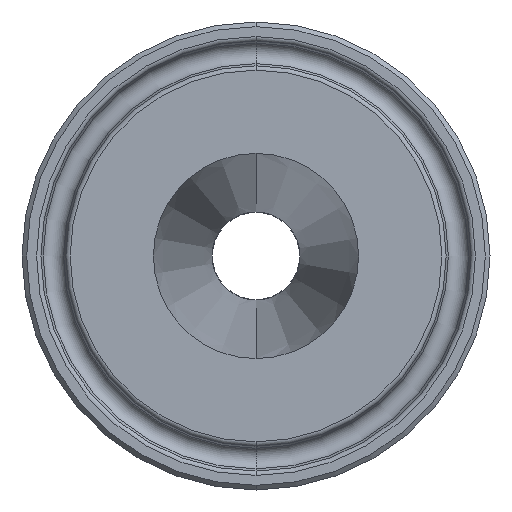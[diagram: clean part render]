
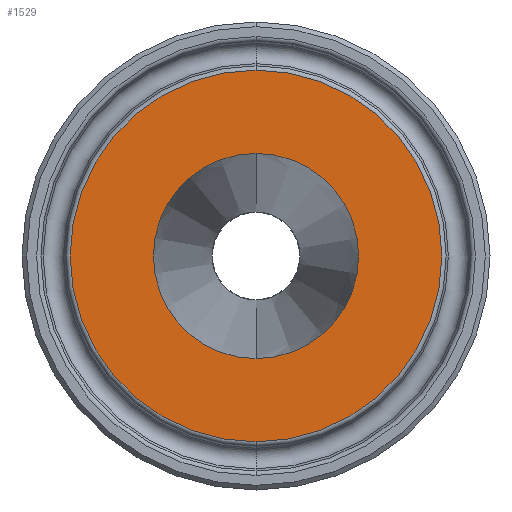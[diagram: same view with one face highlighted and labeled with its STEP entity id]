
A CAD part, left-side view. The second image highlights one B-rep face of the part: STEP entity #1529.
In plain terms, the highlighted planar face has unit normal (-1, 0, 0).
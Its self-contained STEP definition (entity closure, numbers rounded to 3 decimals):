
#5 = EDGE_CURVE ( 'NONE', #631, #799, #1099, .T. ) ;
#35 = DIRECTION ( 'NONE',  ( 0., 0., -1. ) ) ;
#115 = AXIS2_PLACEMENT_3D ( 'NONE', #541, #649, #1101 ) ;
#123 = AXIS2_PLACEMENT_3D ( 'NONE', #1526, #506, #1537 ) ;
#140 = DIRECTION ( 'NONE',  ( 1., 0., 0. ) ) ;
#150 = DIRECTION ( 'NONE',  ( -1., 0., 0. ) ) ;
#152 = EDGE_CURVE ( 'NONE', #1479, #1495, #615, .T. ) ;
#155 = EDGE_CURVE ( 'NONE', #1495, #1479, #685, .T. ) ;
#290 = DIRECTION ( 'NONE',  ( 1., 0., 0. ) ) ;
#452 = CARTESIAN_POINT ( 'NONE',  ( -88.495, 0., -11.05 ) ) ;
#505 = DIRECTION ( 'NONE',  ( 0., 0., 1. ) ) ;
#506 = DIRECTION ( 'NONE',  ( 1., 0., 0. ) ) ;
#541 = CARTESIAN_POINT ( 'NONE',  ( -88.495, 0., 0. ) ) ;
#542 = ORIENTED_EDGE ( 'NONE', *, *, #1296, .T. ) ;
#598 = EDGE_LOOP ( 'NONE', ( #542, #1338 ) ) ;
#604 = FACE_OUTER_BOUND ( 'NONE', #1513, .T. ) ;
#615 = CIRCLE ( 'NONE', #1086, 20.005 ) ;
#631 = VERTEX_POINT ( 'NONE', #1051 ) ;
#640 = CIRCLE ( 'NONE', #115, 11.05 ) ;
#649 = DIRECTION ( 'NONE',  ( 1., 0., 0. ) ) ;
#685 = CIRCLE ( 'NONE', #1320, 20.005 ) ;
#799 = VERTEX_POINT ( 'NONE', #452 ) ;
#927 = FACE_BOUND ( 'NONE', #598, .T. ) ;
#975 = CARTESIAN_POINT ( 'NONE',  ( -88.495, 0., 0. ) ) ;
#1020 = CARTESIAN_POINT ( 'NONE',  ( -88.495, 20.005, 0. ) ) ;
#1051 = CARTESIAN_POINT ( 'NONE',  ( -88.495, 0., 11.05 ) ) ;
#1053 = CARTESIAN_POINT ( 'NONE',  ( -88.495, 0., 20.005 ) ) ;
#1086 = AXIS2_PLACEMENT_3D ( 'NONE', #975, #140, #35 ) ;
#1099 = CIRCLE ( 'NONE', #123, 11.05 ) ;
#1101 = DIRECTION ( 'NONE',  ( 0., 0., -1. ) ) ;
#1133 = DIRECTION ( 'NONE',  ( 0., 0., -1. ) ) ;
#1193 = ORIENTED_EDGE ( 'NONE', *, *, #152, .F. ) ;
#1214 = CARTESIAN_POINT ( 'NONE',  ( -88.495, 0., 0. ) ) ;
#1253 = PLANE ( 'NONE',  #1387 ) ;
#1277 = ORIENTED_EDGE ( 'NONE', *, *, #155, .F. ) ;
#1296 = EDGE_CURVE ( 'NONE', #799, #631, #640, .T. ) ;
#1320 = AXIS2_PLACEMENT_3D ( 'NONE', #1214, #290, #1133 ) ;
#1338 = ORIENTED_EDGE ( 'NONE', *, *, #5, .T. ) ;
#1387 = AXIS2_PLACEMENT_3D ( 'NONE', #1020, #150, #505 ) ;
#1479 = VERTEX_POINT ( 'NONE', #1525 ) ;
#1495 = VERTEX_POINT ( 'NONE', #1053 ) ;
#1513 = EDGE_LOOP ( 'NONE', ( #1193, #1277 ) ) ;
#1525 = CARTESIAN_POINT ( 'NONE',  ( -88.495, 0., -20.005 ) ) ;
#1526 = CARTESIAN_POINT ( 'NONE',  ( -88.495, 0., 0. ) ) ;
#1529 = ADVANCED_FACE ( 'NONE', ( #927, #604 ), #1253, .T. ) ;
#1537 = DIRECTION ( 'NONE',  ( 0., 0., -1. ) ) ;
